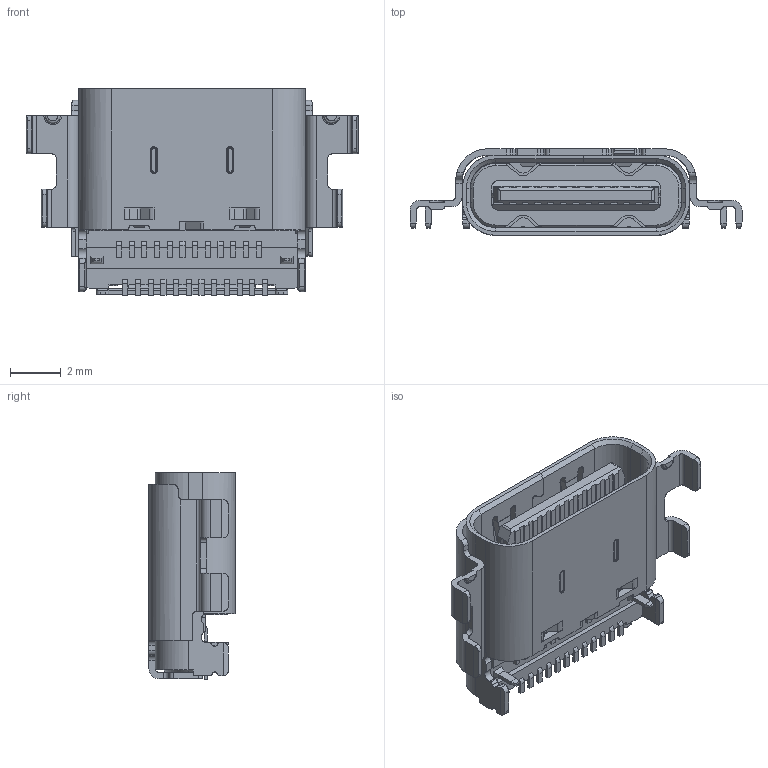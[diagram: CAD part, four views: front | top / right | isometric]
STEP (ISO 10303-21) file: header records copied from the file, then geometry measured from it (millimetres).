
FILE_DESCRIPTION (( 'STEP AP203' ), '1' );
FILE_NAME ('GT-USB-7087A.STEP', '2023-05-24T06:41:53', ( '' ), ( '' ), 'SwSTEP 2.0', 'SolidWorks 2023', '' );
FILE_SCHEMA (( 'CONFIG_CONTROL_DESIGN' ));
Length unit declared in the file: millimetre
Products named in the file (4): OUT-SHELL_1.STEP; HSG_1_2.STEP; GT-USB-7087A.STEP; GT-USB-7087A
Assembly tree (3 placements, depth 3):
  GT-USB-7087A
    GT-USB-7087A.STEP
      HSG_1_2.STEP
      OUT-SHELL_1.STEP
Bounding box: 13.09 x 3.42 x 8.14 mm (x, y, z)
Volume: 136.6 mm3; surface area: 711.2 mm2
Topology: 2 solids, 2 shells, 1312 faces, 3781 edges, 2492 vertices
Faces by surface type: plane 897, cylinder 303, bspline 97, cone 15
Entity records: 48155 total; most frequent: CARTESIAN_POINT 14883, ORIENTED_EDGE 7562, DIRECTION 5710, EDGE_CURVE 3781, VECTOR 2788, LINE 2788, VERTEX_POINT 2492, AXIS2_PLACEMENT_3D 1461
